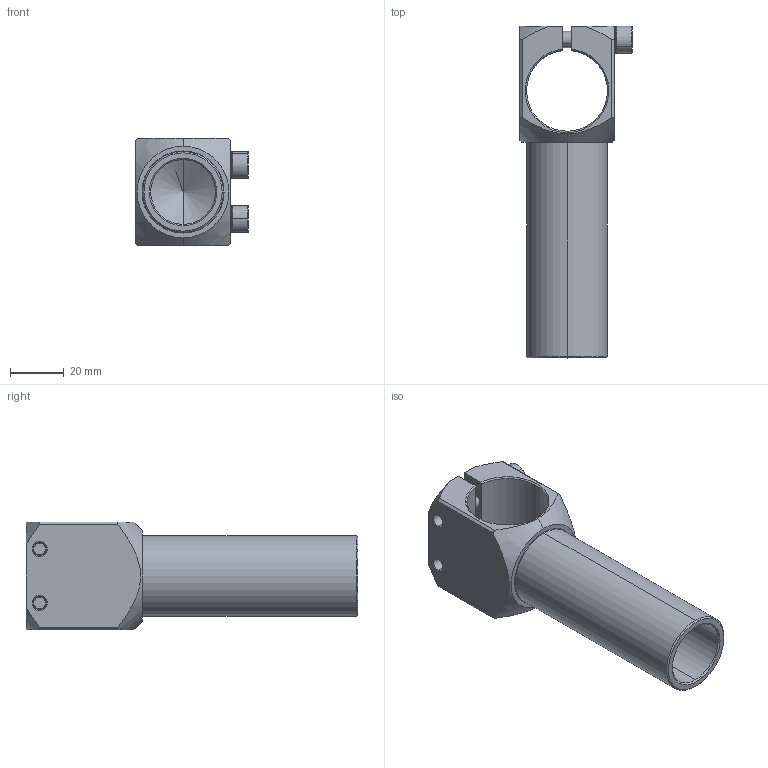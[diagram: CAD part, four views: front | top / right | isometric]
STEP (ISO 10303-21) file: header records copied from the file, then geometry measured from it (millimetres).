
FILE_DESCRIPTION (( 'STEP AP214' ), '1' );
FILE_NAME ('7.Y01006.STEP', '2021-04-20T02:06:28', ( '微软用户' ), ( '微软中国' ), 'SwSTEP 2.0', 'SolidWorks 2018', '' );
FILE_SCHEMA (( 'AUTOMOTIVE_DESIGN' ));
Length unit declared in the file: millimetre
Products named in the file (4): PTC-M6L30; PTS-M6; 2.Y07385; 7.Y01006
Assembly tree (5 placements, depth 2):
  7.Y01006
    2.Y07385
    PTS-M6  x2
    PTC-M6L30  x2
Bounding box: 41.65 x 123 x 40 mm (x, y, z)
Volume: 52391 mm3; surface area: 27482.6 mm2
Topology: 5 solids, 5 shells, 501 faces, 1410 edges, 919 vertices
Faces by surface type: plane 426, cylinder 35, cone 34, torus 6
Entity records: 9340 total; most frequent: CARTESIAN_POINT 1734, DIRECTION 1604, ORIENTED_EDGE 1548, EDGE_CURVE 774, AXIS2_PLACEMENT_3D 561, VERTEX_POINT 503, VECTOR 482, LINE 482
